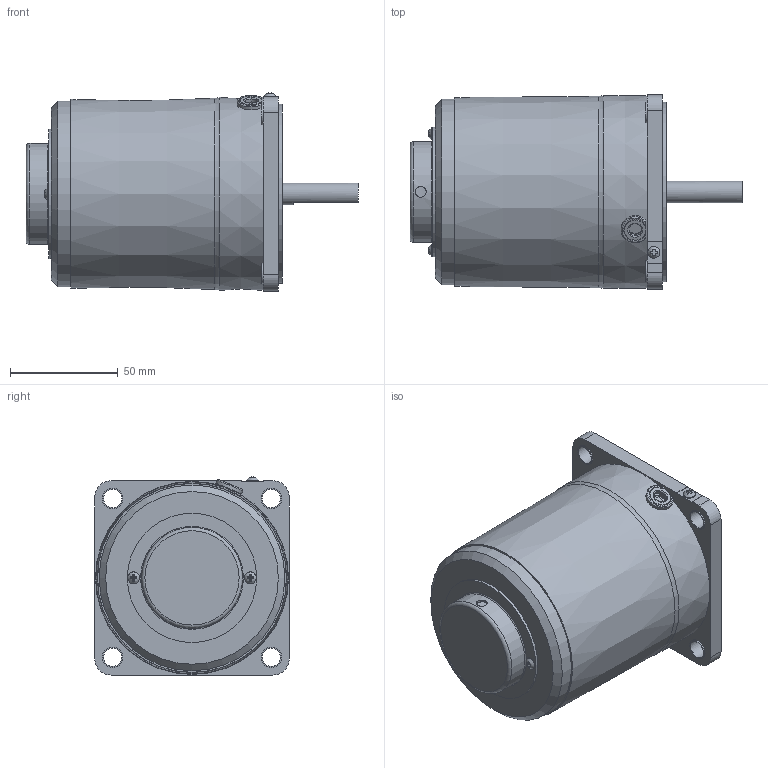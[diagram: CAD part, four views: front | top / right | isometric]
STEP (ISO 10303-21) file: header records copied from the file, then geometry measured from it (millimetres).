
FILE_DESCRIPTION(/* description */ (''),/* implementation_level */ '2;1');
FILE_NAME(/* name */ 'Y:\제품연구개발\3. 도면\3. 고객배포용\3D_홈페이지용\01-1 Standard AC SG Series\05-1 UNIT TYPE SPEED CONTROL MOTOR(V12)\SG9I40_-V12\SG9I40D_-V12.stp',/* time_stamp */ '2023-12-06T14:23:44+09:00',/* author */ ('shyi1037'),/* organization */ (''),/* preprocessor_version */ 'ST-DEVELOPER v18.1',/* originating_system */ 'Autodesk Inventor 2022',/* authorisation */ '');
FILE_SCHEMA (('AUTOMOTIVE_DESIGN { 1 0 10303 214 3 1 1 }'));
Length unit declared in the file: millimetre
Products named in the file (1): SG9I40D_-V12
Bounding box: 153.8 x 90 x 91.76 mm (x, y, z)
Volume: 669244.5 mm3; surface area: 52376.2 mm2
Topology: 1 solids, 6 shells, 165 faces, 402 edges, 266 vertices
Faces by surface type: plane 103, cylinder 45, torus 10, cone 4, bspline 3
Full cylindrical faces by diameter (mm): 3 x2, 3.5 x2, 5 x1, 5.6 x3, 6 x1, 8.5 x4, 9.5 x4, 10 x2, 40 x1, 44.7 x1, 46.7 x1, 47.7 x1, 59.9 x1, 83 x1, 86 x1
Entity records: 5366 total; most frequent: CARTESIAN_POINT 1262, ORIENTED_EDGE 804, DIRECTION 799, EDGE_CURVE 402, AXIS2_PLACEMENT_3D 289, VERTEX_POINT 266, LINE 221, VECTOR 221
